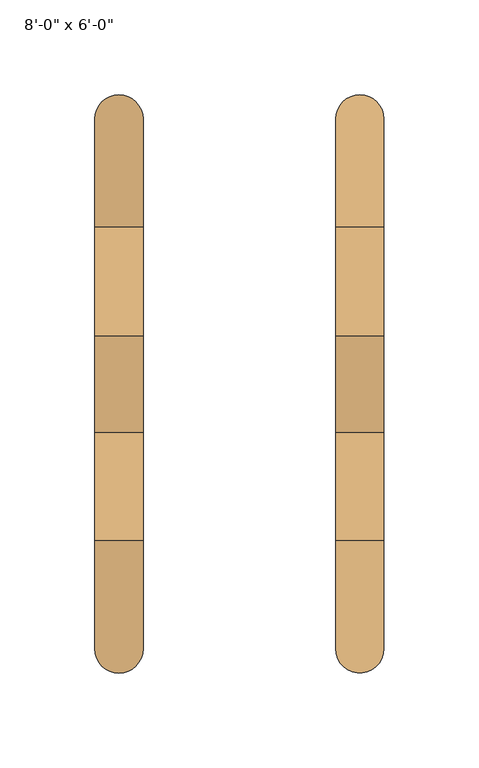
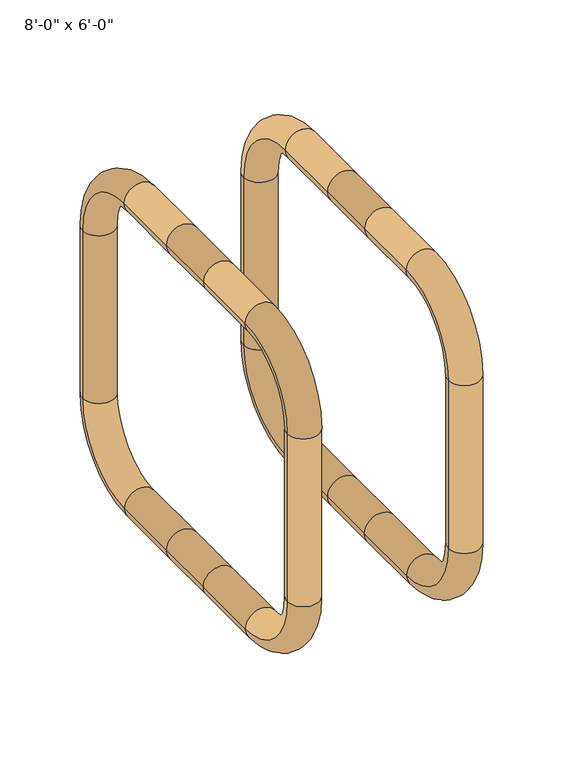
"""IFC4 building model written with IfcOpenShell, lengths in millimetres: door geometry."""

from ifc_helpers import new_model, si_unit, point, frame, origin, place, context, project, spatial, circle_curve, ellipse_curve, trimmed, source, transform, mapped, element, save
from ifc_brep_helpers import cylinder_surface, revolved_surface, advanced_brep


def door_ac8b4fe6(model_context):
    return source(origin(), model_context, "Body", "AdvancedBrep", [
        advanced_brep(
        [(-685.8, 50.8, 1016.0), (-660.4, 50.8, 1016.0), (-660.4, 107.95, 1016.0), (-685.8, 107.95, 1016.0), (-660.4, 165.1, 958.85), (-685.8, 165.1, 958.85), (-660.4, 165.1, 819.15), (-685.8, 165.1, 819.15), (-660.4, 107.95, 762.0), (-685.8, 107.95, 762.0), (-660.4, 50.8, 762.0), (-685.8, 50.8, 762.0), (-660.4, 0.0, 1016.0), (-685.8, 0.0, 1016.0), (-660.4, 0.0, 762.0), (-685.8, 0.0, 762.0), (-685.8, -57.15, 762.0), (-660.4, -57.15, 762.0), (-685.8, -114.3, 819.15), (-660.4, -114.3, 819.15), (-685.8, -114.3, 958.85), (-660.4, -114.3, 958.85), (-685.8, -57.15, 1016.0), (-660.4, -57.15, 1016.0)],
        [
            (0, 1, circle_curve(frame((-673.1, 50.8, 1016.0), z_axis=(0.0, 1.0, 0.0), x_axis=(1.0, 0.0, 0.0)), 12.7)),
            (1, 2),
            (2, 3, circle_curve(frame((-673.1, 107.95, 1016.0), z_axis=(0.0, -1.0, 0.0), x_axis=(1.0, 0.0, 0.0)), 12.7)),
            (3, 0),
            (3, 2, circle_curve(frame((-673.1, 107.95, 1016.0), z_axis=(0.0, -1.0, 0.0), x_axis=(1.0, 0.0, 0.0)), 12.7)),
            (1, 0, circle_curve(frame((-673.1, 50.8, 1016.0), z_axis=(0.0, 1.0, 0.0), x_axis=(1.0, 0.0, 0.0)), 12.7)),
            (2, 4, circle_curve(frame((-660.4, 107.95, 958.85), z_axis=(-1.0, 0.0, 0.0), x_axis=(0.0, 0.0, 1.0)), 57.15)),
            (4, 5, circle_curve(frame((-673.1, 165.1, 958.85), z_axis=(0.0, 0.0, 1.0), x_axis=(1.0, 0.0, 0.0)), 12.7)),
            (5, 3, circle_curve(frame((-685.8, 107.95, 958.85), z_axis=(1.0, 0.0, 0.0), x_axis=(0.0, 0.0, 1.0)), 57.15)),
            (5, 4, circle_curve(frame((-673.1, 165.1, 958.85), z_axis=(0.0, 0.0, 1.0), x_axis=(1.0, 0.0, 0.0)), 12.7)),
            (4, 6),
            (6, 7, circle_curve(frame((-673.1, 165.1, 819.15), z_axis=(0.0, 0.0, 1.0), x_axis=(1.0, 0.0, 0.0)), 12.7)),
            (7, 5),
            (7, 6, circle_curve(frame((-673.1, 165.1, 819.15), z_axis=(0.0, 0.0, 1.0), x_axis=(1.0, 0.0, 0.0)), 12.7)),
            (6, 8, circle_curve(frame((-660.4, 107.95, 819.15), z_axis=(-1.0, 0.0, 0.0), x_axis=(0.0, 1.0, 0.0)), 57.15)),
            (8, 9, circle_curve(frame((-673.1, 107.95, 762.0), z_axis=(0.0, 1.0, 0.0), x_axis=(1.0, 0.0, 0.0)), 12.7)),
            (9, 7, circle_curve(frame((-685.8, 107.95, 819.15), z_axis=(1.0, 0.0, 0.0), x_axis=(0.0, 1.0, 0.0)), 57.15)),
            (9, 8, circle_curve(frame((-673.1, 107.95, 762.0), z_axis=(0.0, 1.0, 0.0), x_axis=(1.0, 0.0, 0.0)), 12.7)),
            (8, 10),
            (10, 11, circle_curve(frame((-673.1, 50.8, 762.0), z_axis=(0.0, 1.0, 0.0), x_axis=(1.0, 0.0, 0.0)), 12.7)),
            (11, 9),
            (11, 10, circle_curve(frame((-673.1, 50.8, 762.0), z_axis=(0.0, 1.0, 0.0), x_axis=(1.0, 0.0, 0.0)), 12.7)),
            (1, 12),
            (12, 13, circle_curve(frame((-673.1, 0.0, 1016.0), z_axis=(0.0, 1.0, 0.0), x_axis=(-1.0, 0.0, 0.0)), 12.7)),
            (13, 0),
            (13, 12, circle_curve(frame((-673.1, 0.0, 1016.0), z_axis=(0.0, 1.0, 0.0), x_axis=(-1.0, 0.0, 0.0)), 12.7)),
            (14, 15, circle_curve(frame((-673.1, 0.0, 762.0), z_axis=(0.0, -1.0, 0.0), x_axis=(1.0, 0.0, 0.0)), 12.7)),
            (15, 16),
            (16, 17, circle_curve(frame((-673.1, -57.15, 762.0), z_axis=(0.0, 1.0, 0.0), x_axis=(1.0, 0.0, 0.0)), 12.7)),
            (17, 14),
            (17, 16, circle_curve(frame((-673.1, -57.15, 762.0), z_axis=(0.0, 1.0, 0.0), x_axis=(1.0, 0.0, 0.0)), 12.7)),
            (15, 14, circle_curve(frame((-673.1, 0.0, 762.0), z_axis=(0.0, -1.0, 0.0), x_axis=(1.0, 0.0, 0.0)), 12.7)),
            (16, 18, circle_curve(frame((-685.8, -57.15, 819.15), z_axis=(-1.0, 0.0, 0.0), x_axis=(0.0, 0.0, -1.0)), 57.15)),
            (18, 19, circle_curve(frame((-673.1, -114.3, 819.15), z_axis=(0.0, 0.0, -1.0), x_axis=(1.0, 0.0, 0.0)), 12.7)),
            (19, 17, circle_curve(frame((-660.4, -57.15, 819.15), z_axis=(1.0, 0.0, 0.0), x_axis=(0.0, 0.0, -1.0)), 57.15)),
            (19, 18, circle_curve(frame((-673.1, -114.3, 819.15), z_axis=(0.0, 0.0, -1.0), x_axis=(1.0, 0.0, 0.0)), 12.7)),
            (18, 20),
            (20, 21, circle_curve(frame((-673.1, -114.3, 958.85), z_axis=(0.0, 0.0, -1.0), x_axis=(1.0, 0.0, 0.0)), 12.7)),
            (21, 19),
            (21, 20, circle_curve(frame((-673.1, -114.3, 958.85), z_axis=(0.0, 0.0, -1.0), x_axis=(1.0, 0.0, 0.0)), 12.7)),
            (20, 22, circle_curve(frame((-685.8, -57.15, 958.85), z_axis=(-1.0, 0.0, 0.0), x_axis=(0.0, -1.0, 0.0)), 57.15)),
            (22, 23, circle_curve(frame((-673.1, -57.15, 1016.0), z_axis=(0.0, -1.0, 0.0), x_axis=(1.0, 0.0, 0.0)), 12.7)),
            (23, 21, circle_curve(frame((-660.4, -57.15, 958.85), z_axis=(1.0, 0.0, 0.0), x_axis=(0.0, -1.0, 0.0)), 57.15)),
            (23, 22, circle_curve(frame((-673.1, -57.15, 1016.0), z_axis=(0.0, -1.0, 0.0), x_axis=(1.0, 0.0, 0.0)), 12.7)),
            (22, 13),
            (12, 23),
            (10, 14),
            (15, 11),
        ],
        [
            cylinder_surface(frame((-673.1, 50.8, 1016.0), z_axis=(0.0, -1.0, 0.0), x_axis=(1.0, 0.0, 0.0)), 12.7),
            revolved_surface(trimmed(ellipse_curve(frame((-673.1, 107.95, 1016.0), z_axis=(0.0, 1.0, 0.0), x_axis=(1.0, 0.0, 0.0)), 12.7, 12.7), [point((-685.8, 107.95, 1016.0))], [point((-660.4, 107.95, 1016.0))], True, "CARTESIAN"), (-673.1, 107.95, 958.85), (1.0, 0.0, 0.0)),
            revolved_surface(trimmed(ellipse_curve(frame((-673.1, 107.95, 1016.0), z_axis=(0.0, 1.0, 0.0), x_axis=(1.0, 0.0, 0.0)), 12.7, 12.7), [point((-660.4, 107.95, 1016.0))], [point((-685.8, 107.95, 1016.0))], True, "CARTESIAN"), (-673.1, 107.95, 958.85), (1.0, 0.0, 0.0)),
            cylinder_surface(frame((-673.1, 165.1, 958.85), z_axis=(0.0, 0.0, 1.0), x_axis=(1.0, 0.0, 0.0)), 12.7),
            revolved_surface(trimmed(ellipse_curve(frame((-673.1, 165.1, 819.15), z_axis=(0.0, 0.0, -1.0), x_axis=(1.0, 0.0, 0.0)), 12.7, 12.7), [point((-685.8, 165.1, 819.15))], [point((-660.4, 165.1, 819.15))], True, "CARTESIAN"), (-673.1, 107.95, 819.15), (1.0, 0.0, 0.0)),
            revolved_surface(trimmed(ellipse_curve(frame((-673.1, 165.1, 819.15), z_axis=(0.0, 0.0, -1.0), x_axis=(1.0, 0.0, 0.0)), 12.7, 12.7), [point((-660.4, 165.1, 819.15))], [point((-685.8, 165.1, 819.15))], True, "CARTESIAN"), (-673.1, 107.95, 819.15), (1.0, 0.0, 0.0)),
            cylinder_surface(frame((-673.1, 107.95, 762.0), z_axis=(0.0, 1.0, 0.0), x_axis=(1.0, 0.0, 0.0)), 12.7),
            cylinder_surface(frame((-673.1, 0.0, 1016.0), z_axis=(0.0, 1.0, 0.0), x_axis=(-1.0, 0.0, 0.0)), 12.7),
            cylinder_surface(frame((-673.1, 0.0, 762.0), z_axis=(0.0, 1.0, 0.0), x_axis=(1.0, 0.0, 0.0)), 12.7),
            revolved_surface(trimmed(ellipse_curve(frame((-673.1, -57.15, 762.0), z_axis=(0.0, -1.0, 0.0), x_axis=(1.0, 0.0, 0.0)), 12.7, 12.7), [point((-660.4, -57.15, 762.0))], [point((-685.8, -57.15, 762.0))], True, "CARTESIAN"), (-673.1, -57.15, 819.15), (1.0, 0.0, 0.0)),
            revolved_surface(trimmed(ellipse_curve(frame((-673.1, -57.15, 762.0), z_axis=(0.0, -1.0, 0.0), x_axis=(1.0, 0.0, 0.0)), 12.7, 12.7), [point((-685.8, -57.15, 762.0))], [point((-660.4, -57.15, 762.0))], True, "CARTESIAN"), (-673.1, -57.15, 819.15), (1.0, 0.0, 0.0)),
            cylinder_surface(frame((-673.1, -114.3, 819.15), z_axis=(0.0, 0.0, -1.0), x_axis=(1.0, 0.0, 0.0)), 12.7),
            revolved_surface(trimmed(ellipse_curve(frame((-673.1, -114.3, 958.85), z_axis=(0.0, 0.0, 1.0), x_axis=(1.0, 0.0, 0.0)), 12.7, 12.7), [point((-660.4, -114.3, 958.85))], [point((-685.8, -114.3, 958.85))], True, "CARTESIAN"), (-673.1, -57.15, 958.85), (1.0, 0.0, 0.0)),
            revolved_surface(trimmed(ellipse_curve(frame((-673.1, -114.3, 958.85), z_axis=(0.0, 0.0, 1.0), x_axis=(1.0, 0.0, 0.0)), 12.7, 12.7), [point((-685.8, -114.3, 958.85))], [point((-660.4, -114.3, 958.85))], True, "CARTESIAN"), (-673.1, -57.15, 958.85), (1.0, 0.0, 0.0)),
            cylinder_surface(frame((-673.1, -57.15, 1016.0), z_axis=(0.0, -1.0, 0.0), x_axis=(1.0, 0.0, 0.0)), 12.7),
            cylinder_surface(frame((-673.1, 0.0, 762.0), z_axis=(0.0, 1.0, 0.0), x_axis=(-1.0, 0.0, 0.0)), 12.7),
        ],
        [
            (0, [[1, 2, 3, 4]]),
            (0, [[5, -2, 6, -4]]),
            (1, [[7, 8, 9, -3]]),
            (2, [[-9, 10, -7, -5]]),
            (3, [[11, 12, 13, -8]]),
            (3, [[-13, 14, -11, -10]]),
            (4, [[15, 16, 17, -12]]),
            (5, [[-17, 18, -15, -14]]),
            (6, [[19, 20, 21, -16]]),
            (6, [[-21, 22, -19, -18]]),
            (7, [[-6, 23, 24, 25]]),
            (7, [[26, -23, -1, -25]]),
            (8, [[27, 28, 29, 30]]),
            (8, [[31, -28, 32, -30]]),
            (9, [[33, 34, 35, -29]]),
            (10, [[-35, 36, -33, -31]]),
            (11, [[37, 38, 39, -34]]),
            (11, [[-39, 40, -37, -36]]),
            (12, [[41, 42, 43, -38]]),
            (13, [[-43, 44, -41, -40]]),
            (14, [[45, -24, 46, -42]]),
            (14, [[-46, -26, -45, -44]]),
            (15, [[-20, 47, -32, 48]]),
            (15, [[-27, -47, -22, -48]]),
        ],
    ),
        advanced_brep(
        [(-533.4, 50.8, 1016.0), (-533.4, 107.95, 1016.0), (-558.8, 107.95, 1016.0), (-558.8, 50.8, 1016.0), (-533.4, 165.1, 958.85), (-558.8, 165.1, 958.85), (-533.4, 165.1, 819.15), (-558.8, 165.1, 819.15), (-533.4, 107.95, 762.0), (-558.8, 107.95, 762.0), (-533.4, 50.8, 762.0), (-558.8, 50.8, 762.0), (-533.4, 0.0, 1016.0), (-558.8, 0.0, 1016.0), (-558.8, 0.0, 762.0), (-558.8, -57.15, 762.0), (-533.4, -57.15, 762.0), (-533.4, 0.0, 762.0), (-558.8, -114.3, 819.15), (-533.4, -114.3, 819.15), (-558.8, -114.3, 958.85), (-533.4, -114.3, 958.85), (-558.8, -57.15, 1016.0), (-533.4, -57.15, 1016.0)],
        [
            (0, 1),
            (1, 2, circle_curve(frame((-546.1, 107.95, 1016.0), z_axis=(0.0, -1.0, 0.0), x_axis=(-1.0, 0.0, 0.0)), 12.7)),
            (2, 3),
            (3, 0, circle_curve(frame((-546.1, 50.8, 1016.0), z_axis=(0.0, 1.0, 0.0), x_axis=(-1.0, 0.0, 0.0)), 12.7)),
            (0, 3, circle_curve(frame((-546.1, 50.8, 1016.0), z_axis=(0.0, 1.0, 0.0), x_axis=(-1.0, 0.0, 0.0)), 12.7)),
            (2, 1, circle_curve(frame((-546.1, 107.95, 1016.0), z_axis=(0.0, -1.0, 0.0), x_axis=(-1.0, 0.0, 0.0)), 12.7)),
            (1, 4, circle_curve(frame((-533.4, 107.95, 958.85), z_axis=(-1.0, 0.0, 0.0), x_axis=(0.0, 0.0, 1.0)), 57.15)),
            (4, 5, circle_curve(frame((-546.1, 165.1, 958.85), z_axis=(0.0, 0.0, 1.0), x_axis=(-1.0, 0.0, 0.0)), 12.7)),
            (5, 2, circle_curve(frame((-558.8, 107.95, 958.85), z_axis=(1.0, 0.0, 0.0), x_axis=(0.0, 0.0, 1.0)), 57.15)),
            (5, 4, circle_curve(frame((-546.1, 165.1, 958.85), z_axis=(0.0, 0.0, 1.0), x_axis=(-1.0, 0.0, 0.0)), 12.7)),
            (4, 6),
            (6, 7, circle_curve(frame((-546.1, 165.1, 819.15), z_axis=(0.0, 0.0, 1.0), x_axis=(-1.0, 0.0, 0.0)), 12.7)),
            (7, 5),
            (7, 6, circle_curve(frame((-546.1, 165.1, 819.15), z_axis=(0.0, 0.0, 1.0), x_axis=(-1.0, 0.0, 0.0)), 12.7)),
            (6, 8, circle_curve(frame((-533.4, 107.95, 819.15), z_axis=(-1.0, 0.0, 0.0), x_axis=(0.0, 1.0, 0.0)), 57.15)),
            (8, 9, circle_curve(frame((-546.1, 107.95, 762.0), z_axis=(0.0, 1.0, 0.0), x_axis=(-1.0, 0.0, 0.0)), 12.7)),
            (9, 7, circle_curve(frame((-558.8, 107.95, 819.15), z_axis=(1.0, 0.0, 0.0), x_axis=(0.0, 1.0, 0.0)), 57.15)),
            (9, 8, circle_curve(frame((-546.1, 107.95, 762.0), z_axis=(0.0, 1.0, 0.0), x_axis=(-1.0, 0.0, 0.0)), 12.7)),
            (8, 10),
            (10, 11, circle_curve(frame((-546.1, 50.8, 762.0), z_axis=(0.0, 1.0, 0.0), x_axis=(-1.0, 0.0, 0.0)), 12.7)),
            (11, 9),
            (11, 10, circle_curve(frame((-546.1, 50.8, 762.0), z_axis=(0.0, 1.0, 0.0), x_axis=(-1.0, 0.0, 0.0)), 12.7)),
            (0, 12),
            (12, 13, circle_curve(frame((-546.1, 0.0, 1016.0), z_axis=(0.0, 1.0, 0.0), x_axis=(1.0, 0.0, 0.0)), 12.7)),
            (13, 3),
            (13, 12, circle_curve(frame((-546.1, 0.0, 1016.0), z_axis=(0.0, 1.0, 0.0), x_axis=(1.0, 0.0, 0.0)), 12.7)),
            (14, 15),
            (15, 16, circle_curve(frame((-546.1, -57.15, 762.0), z_axis=(0.0, 1.0, 0.0), x_axis=(-1.0, 0.0, 0.0)), 12.7)),
            (16, 17),
            (17, 14, circle_curve(frame((-546.1, 0.0, 762.0), z_axis=(0.0, -1.0, 0.0), x_axis=(-1.0, 0.0, 0.0)), 12.7)),
            (14, 17, circle_curve(frame((-546.1, 0.0, 762.0), z_axis=(0.0, -1.0, 0.0), x_axis=(-1.0, 0.0, 0.0)), 12.7)),
            (16, 15, circle_curve(frame((-546.1, -57.15, 762.0), z_axis=(0.0, 1.0, 0.0), x_axis=(-1.0, 0.0, 0.0)), 12.7)),
            (15, 18, circle_curve(frame((-558.8, -57.15, 819.15), z_axis=(-1.0, 0.0, 0.0), x_axis=(0.0, 0.0, -1.0)), 57.15)),
            (18, 19, circle_curve(frame((-546.1, -114.3, 819.15), z_axis=(0.0, 0.0, -1.0), x_axis=(-1.0, 0.0, 0.0)), 12.7)),
            (19, 16, circle_curve(frame((-533.4, -57.15, 819.15), z_axis=(1.0, 0.0, 0.0), x_axis=(0.0, 0.0, -1.0)), 57.15)),
            (19, 18, circle_curve(frame((-546.1, -114.3, 819.15), z_axis=(0.0, 0.0, -1.0), x_axis=(-1.0, 0.0, 0.0)), 12.7)),
            (18, 20),
            (20, 21, circle_curve(frame((-546.1, -114.3, 958.85), z_axis=(0.0, 0.0, -1.0), x_axis=(-1.0, 0.0, 0.0)), 12.7)),
            (21, 19),
            (21, 20, circle_curve(frame((-546.1, -114.3, 958.85), z_axis=(0.0, 0.0, -1.0), x_axis=(-1.0, 0.0, 0.0)), 12.7)),
            (20, 22, circle_curve(frame((-558.8, -57.15, 958.85), z_axis=(-1.0, 0.0, 0.0), x_axis=(0.0, -1.0, 0.0)), 57.15)),
            (22, 23, circle_curve(frame((-546.1, -57.15, 1016.0), z_axis=(0.0, -1.0, 0.0), x_axis=(-1.0, 0.0, 0.0)), 12.7)),
            (23, 21, circle_curve(frame((-533.4, -57.15, 958.85), z_axis=(1.0, 0.0, 0.0), x_axis=(0.0, -1.0, 0.0)), 57.15)),
            (23, 22, circle_curve(frame((-546.1, -57.15, 1016.0), z_axis=(0.0, -1.0, 0.0), x_axis=(-1.0, 0.0, 0.0)), 12.7)),
            (22, 13),
            (12, 23),
            (10, 17),
            (14, 11),
        ],
        [
            cylinder_surface(frame((-546.1, 50.8, 1016.0), z_axis=(0.0, -1.0, 0.0), x_axis=(-1.0, 0.0, 0.0)), 12.7),
            revolved_surface(trimmed(ellipse_curve(frame((-546.1, 107.95, 1016.0), z_axis=(0.0, -1.0, 0.0), x_axis=(-1.0, 0.0, 0.0)), 12.7, 12.7), [point((-533.4, 107.95, 1016.0))], [point((-558.8, 107.95, 1016.0))], True, "CARTESIAN"), (-546.1, 107.95, 958.85), (-1.0, 0.0, 0.0)),
            revolved_surface(trimmed(ellipse_curve(frame((-546.1, 107.95, 1016.0), z_axis=(0.0, -1.0, 0.0), x_axis=(-1.0, 0.0, 0.0)), 12.7, 12.7), [point((-558.8, 107.95, 1016.0))], [point((-533.4, 107.95, 1016.0))], True, "CARTESIAN"), (-546.1, 107.95, 958.85), (-1.0, 0.0, 0.0)),
            cylinder_surface(frame((-546.1, 165.1, 958.85), z_axis=(0.0, 0.0, 1.0), x_axis=(-1.0, 0.0, 0.0)), 12.7),
            revolved_surface(trimmed(ellipse_curve(frame((-546.1, 165.1, 819.15), z_axis=(0.0, 0.0, 1.0), x_axis=(-1.0, 0.0, 0.0)), 12.7, 12.7), [point((-533.4, 165.1, 819.15))], [point((-558.8, 165.1, 819.15))], True, "CARTESIAN"), (-546.1, 107.95, 819.15), (-1.0, 0.0, 0.0)),
            revolved_surface(trimmed(ellipse_curve(frame((-546.1, 165.1, 819.15), z_axis=(0.0, 0.0, 1.0), x_axis=(-1.0, 0.0, 0.0)), 12.7, 12.7), [point((-558.8, 165.1, 819.15))], [point((-533.4, 165.1, 819.15))], True, "CARTESIAN"), (-546.1, 107.95, 819.15), (-1.0, 0.0, 0.0)),
            cylinder_surface(frame((-546.1, 107.95, 762.0), z_axis=(0.0, 1.0, 0.0), x_axis=(-1.0, 0.0, 0.0)), 12.7),
            cylinder_surface(frame((-546.1, 0.0, 1016.0), z_axis=(0.0, 1.0, 0.0), x_axis=(1.0, 0.0, 0.0)), 12.7),
            cylinder_surface(frame((-546.1, 0.0, 762.0), z_axis=(0.0, 1.0, 0.0), x_axis=(-1.0, 0.0, 0.0)), 12.7),
            revolved_surface(trimmed(ellipse_curve(frame((-546.1, -57.15, 762.0), z_axis=(0.0, 1.0, 0.0), x_axis=(-1.0, 0.0, 0.0)), 12.7, 12.7), [point((-558.8, -57.15, 762.0))], [point((-533.4, -57.15, 762.0))], True, "CARTESIAN"), (-546.1, -57.15, 819.15), (-1.0, 0.0, 0.0)),
            revolved_surface(trimmed(ellipse_curve(frame((-546.1, -57.15, 762.0), z_axis=(0.0, 1.0, 0.0), x_axis=(-1.0, 0.0, 0.0)), 12.7, 12.7), [point((-533.4, -57.15, 762.0))], [point((-558.8, -57.15, 762.0))], True, "CARTESIAN"), (-546.1, -57.15, 819.15), (-1.0, 0.0, 0.0)),
            cylinder_surface(frame((-546.1, -114.3, 819.15), z_axis=(0.0, 0.0, -1.0), x_axis=(-1.0, 0.0, 0.0)), 12.7),
            revolved_surface(trimmed(ellipse_curve(frame((-546.1, -114.3, 958.85), z_axis=(0.0, 0.0, -1.0), x_axis=(-1.0, 0.0, 0.0)), 12.7, 12.7), [point((-558.8, -114.3, 958.85))], [point((-533.4, -114.3, 958.85))], True, "CARTESIAN"), (-546.1, -57.15, 958.85), (-1.0, 0.0, 0.0)),
            revolved_surface(trimmed(ellipse_curve(frame((-546.1, -114.3, 958.85), z_axis=(0.0, 0.0, -1.0), x_axis=(-1.0, 0.0, 0.0)), 12.7, 12.7), [point((-533.4, -114.3, 958.85))], [point((-558.8, -114.3, 958.85))], True, "CARTESIAN"), (-546.1, -57.15, 958.85), (-1.0, 0.0, 0.0)),
            cylinder_surface(frame((-546.1, -57.15, 1016.0), z_axis=(0.0, -1.0, 0.0), x_axis=(-1.0, 0.0, 0.0)), 12.7),
            cylinder_surface(frame((-546.1, 0.0, 762.0), z_axis=(0.0, 1.0, 0.0), x_axis=(1.0, 0.0, 0.0)), 12.7),
        ],
        [
            (0, [[1, 2, 3, 4]]),
            (0, [[-1, 5, -3, 6]]),
            (1, [[-2, 7, 8, 9]]),
            (2, [[-6, -9, 10, -7]]),
            (3, [[-8, 11, 12, 13]]),
            (3, [[-10, -13, 14, -11]]),
            (4, [[-12, 15, 16, 17]]),
            (5, [[-14, -17, 18, -15]]),
            (6, [[-16, 19, 20, 21]]),
            (6, [[-18, -21, 22, -19]]),
            (7, [[23, 24, 25, -5]]),
            (7, [[-23, -4, -25, 26]]),
            (8, [[27, 28, 29, 30]]),
            (8, [[-27, 31, -29, 32]]),
            (9, [[-28, 33, 34, 35]]),
            (10, [[-32, -35, 36, -33]]),
            (11, [[-34, 37, 38, 39]]),
            (11, [[-36, -39, 40, -37]]),
            (12, [[-38, 41, 42, 43]]),
            (13, [[-40, -43, 44, -41]]),
            (14, [[-42, 45, -24, 46]]),
            (14, [[-44, -46, -26, -45]]),
            (15, [[47, -31, 48, -20]]),
            (15, [[-47, -22, -48, -30]]),
        ],
    ),
    ])


if __name__ == "__main__":
    model = new_model("IFC4")
    model_context = context("Model", 3, world=origin())
    ifc_project = project(units=[si_unit("LENGTHUNIT", "METRE", prefix="MILLI")], contexts=[model_context])
    site = spatial("IfcSite", under=ifc_project)
    building = spatial("IfcBuilding", under=site)
    placement = place(None, origin())
    door_shape = door_ac8b4fe6(model_context)
    element("IfcDoor", 1, ObjectType="Planitar -Double Door_Swapper : 8'-0\" x 6'-0\"", at=placement, inside=building, context=model_context, shape_type="MappedRepresentation", body=[
        mapped(door_shape, transform((0.0, 0.0, 0.0), x_axis=(1.0, 0.0, 0.0), y_axis=(0.0, 1.0, 0.0), z_axis=(0.0, 0.0, 1.0))),
    ])
    save(model, "model.ifc")
